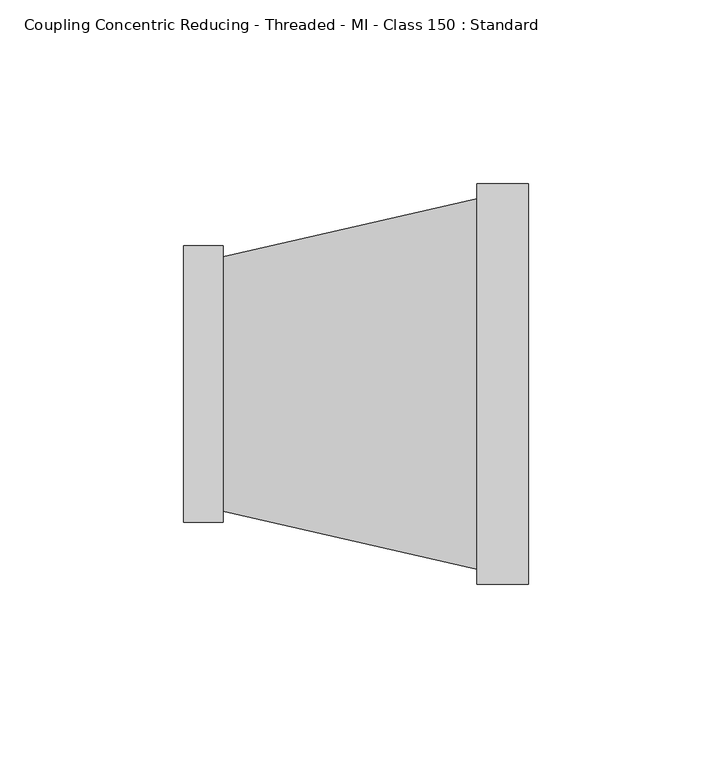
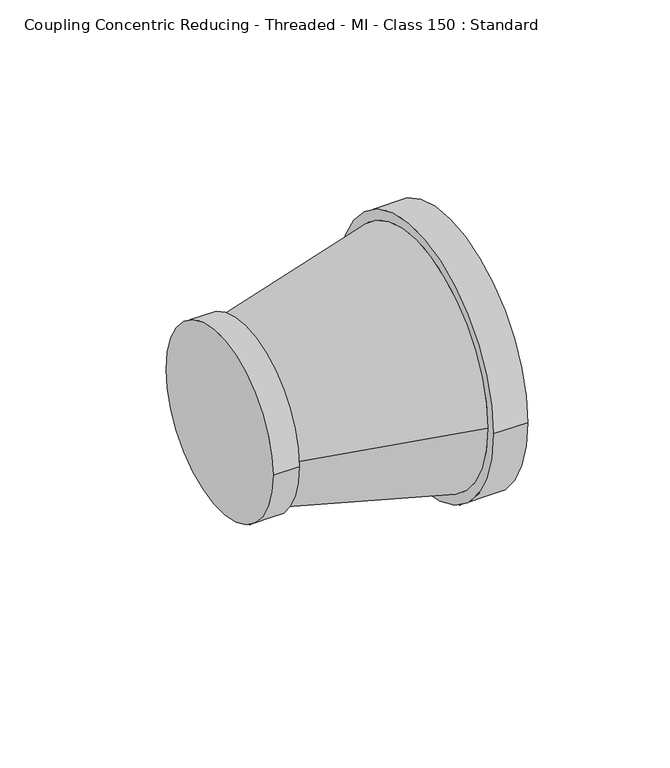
"""IFC4 building model written with IfcOpenShell, lengths in millimetres: pipe fitting geometry, Coupling Concentric Reducing - Threaded - MI - Class 150 : Standard."""

from ifc_helpers import new_model, si_unit, frame, origin, place, context, project, spatial, polyline, circle_curve, source, transform, mapped, element, save
from ifc_brep_helpers import plane_surface, cylinder_surface, revolved_surface, advanced_brep


def coupling_concentric_reducing_threaded_mi_class_150_standard_42f7e852(model_context):
    return source(origin(), model_context, "Body", "AdvancedBrep", [
        advanced_brep(
        [(10.7, 34.54, 0.0), (79.8, 50.32, 0.0), (79.8, -50.32, 0.0), (10.7, -34.54, 0.0), (93.7, -54.4, 0.0), (93.7, 54.4, 0.0), (79.8, -54.4, 0.0), (79.8, 54.4, 0.0), (10.7, -37.65, 0.0), (10.7, 37.65, 0.0), (0.0, -37.65, 0.0), (0.0, 37.65, 0.0)],
        [
            (0, 1),
            (1, 2, circle_curve(frame((79.8, 0.0, 0.0), z_axis=(-1.0, 0.0, 0.0), x_axis=(0.0, -1.0, 0.0)), 50.32)),
            (2, 3),
            (3, 0, circle_curve(frame((10.7, 0.0, 0.0), z_axis=(1.0, 0.0, 0.0), x_axis=(0.0, -1.0, 0.0)), 34.54)),
            (0, 3, circle_curve(frame((10.7, 0.0, 0.0), z_axis=(1.0, 0.0, 0.0), x_axis=(0.0, 1.0, 0.0)), 34.54)),
            (2, 1, circle_curve(frame((79.8, 0.0, 0.0), z_axis=(-1.0, 0.0, 0.0), x_axis=(0.0, 1.0, 0.0)), 50.32)),
            (4, 5, circle_curve(frame((93.7, 0.0, 0.0), z_axis=(1.0, 0.0, 0.0), x_axis=(0.0, 1.0, 0.0)), 54.4)),
            (5, 4, circle_curve(frame((93.7, 0.0, 0.0), z_axis=(1.0, 0.0, 0.0), x_axis=(0.0, 1.0, 0.0)), 54.4)),
            (6, 7, circle_curve(frame((79.8, 0.0, 0.0), z_axis=(-1.0, 0.0, 0.0), x_axis=(0.0, 1.0, 0.0)), 54.4)),
            (7, 6, circle_curve(frame((79.8, 0.0, 0.0), z_axis=(-1.0, 0.0, 0.0), x_axis=(0.0, 1.0, 0.0)), 54.4)),
            (4, 6),
            (7, 5),
            (8, 9, circle_curve(frame((10.7, 0.0, 0.0), z_axis=(1.0, 0.0, 0.0), x_axis=(0.0, 1.0, 0.0)), 37.65)),
            (9, 8, circle_curve(frame((10.7, 0.0, 0.0), z_axis=(1.0, 0.0, 0.0), x_axis=(0.0, 1.0, 0.0)), 37.65)),
            (10, 11, circle_curve(frame((0.0, 0.0, 0.0), z_axis=(-1.0, 0.0, 0.0), x_axis=(0.0, 1.0, 0.0)), 37.65)),
            (11, 10, circle_curve(frame((0.0, 0.0, 0.0), z_axis=(-1.0, 0.0, 0.0), x_axis=(0.0, 1.0, 0.0)), 37.65)),
            (8, 10),
            (11, 9),
        ],
        [
            revolved_surface(polyline([(10.699999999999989, 34.539999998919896, 0.0), (79.80000000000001, 50.32, 0.0)]), (-140.5493029, 0.0, 0.0), (1.0, 0.0, 0.0)),
            plane_surface(frame((93.7, 54.4, 0.0), z_axis=(1.0, 0.0, 0.0), x_axis=(0.0, 0.0, 1.0))),
            plane_surface(frame((79.8, 54.4, 0.0), z_axis=(-1.0, 0.0, 0.0), x_axis=(0.0, 0.0, -1.0))),
            cylinder_surface(frame((79.8, 0.0, 0.0), z_axis=(1.0, 0.0, 0.0), x_axis=(0.0, 1.0, 0.0)), 54.4),
            plane_surface(frame((10.7, 37.65, 0.0), z_axis=(1.0, 0.0, 0.0), x_axis=(0.0, 0.0, 1.0))),
            plane_surface(frame((0.0, 37.65, 0.0), z_axis=(-1.0, 0.0, 0.0), x_axis=(0.0, 0.0, -1.0))),
            cylinder_surface(frame((0.0, 0.0, 0.0), z_axis=(1.0, 0.0, 0.0), x_axis=(0.0, 1.0, 0.0)), 37.65),
        ],
        [
            (0, [[1, 2, 3, 4]]),
            (0, [[-1, 5, -3, 6]]),
            (1, [[7, 8]]),
            (2, [[9, 10], [-2, -6]]),
            (3, [[-7, 11, -10, 12]]),
            (3, [[-8, -12, -9, -11]]),
            (4, [[13, 14], [-4, -5]]),
            (5, [[15, 16]]),
            (6, [[-13, 17, -16, 18]]),
            (6, [[-14, -18, -15, -17]]),
        ],
    ),
    ])


if __name__ == "__main__":
    model = new_model("IFC4")
    model_context = context("Model", 3, world=origin())
    ifc_project = project(units=[si_unit("LENGTHUNIT", "METRE", prefix="MILLI")], contexts=[model_context])
    site = spatial("IfcSite", under=ifc_project)
    building = spatial("IfcBuilding", under=site)
    placement = place(None, origin())
    coupling_concentric_reducing_threaded_mi_class_150_standard_shape = coupling_concentric_reducing_threaded_mi_class_150_standard_42f7e852(model_context)
    element("IfcPipeFitting", 1, ObjectType="Coupling Concentric Reducing - Threaded - MI - Class 150 : Standard", at=placement, inside=building, context=model_context, shape_type="MappedRepresentation", body=[
        mapped(coupling_concentric_reducing_threaded_mi_class_150_standard_shape, transform((0.0, 0.0, 0.0), x_axis=(1.0, 0.0, 0.0), y_axis=(0.0, 1.0, 0.0), z_axis=(0.0, 0.0, 1.0))),
    ])
    save(model, "model.ifc")
